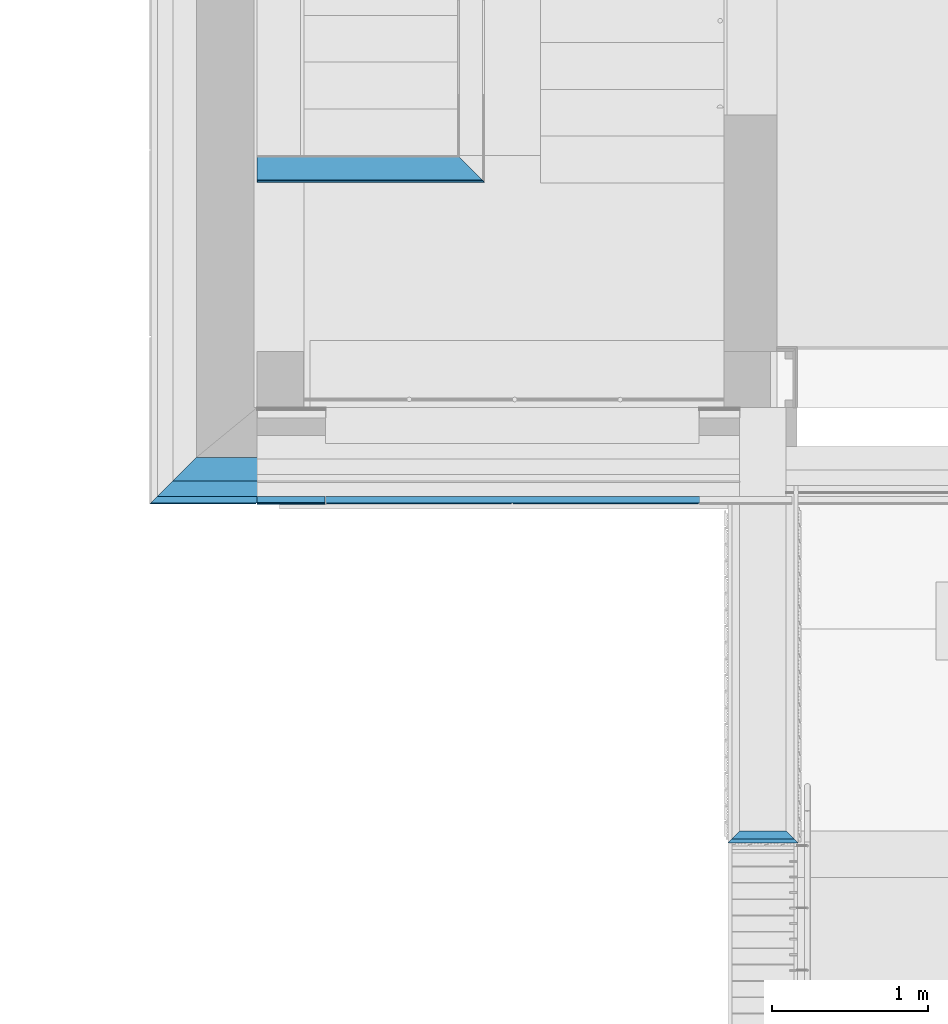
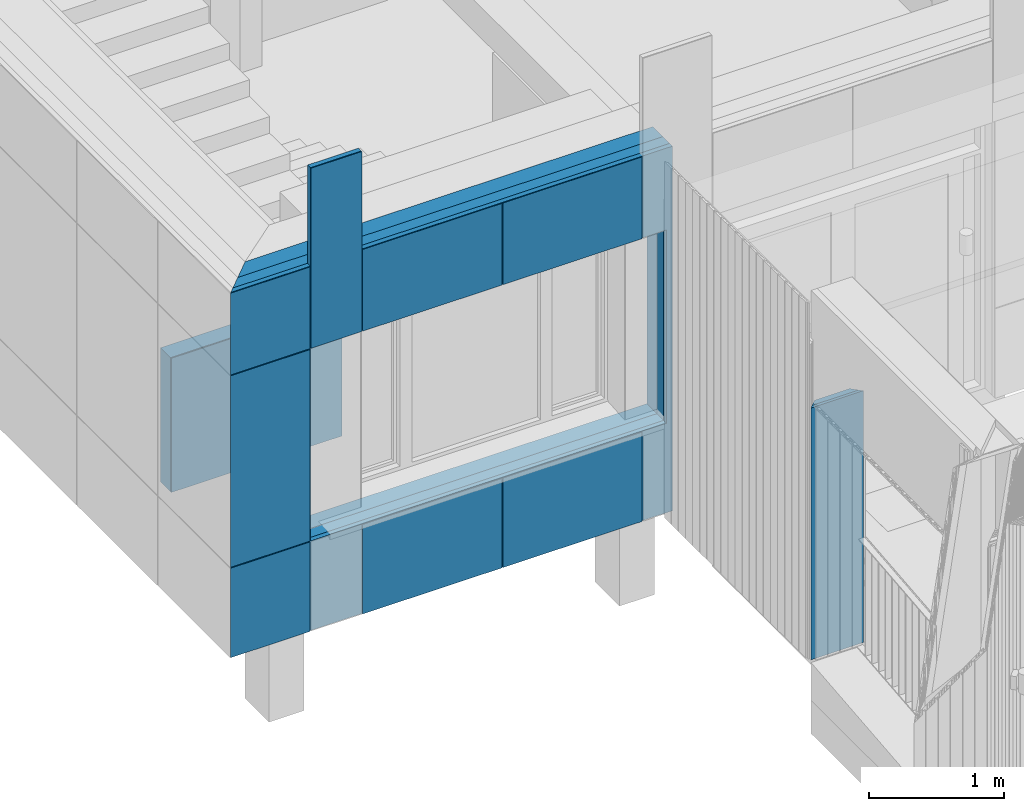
# One storey, part 28 of 418: 10 building element parts, 9 openings, 4 elements without a shape of their own.
"""IFC2X3 building model written with IfcOpenShell, lengths in millimetres."""

from ifc_helpers import new_model, entity, si_unit, converted_unit, derived_unit, money_unit, direction, frame, origin_with_axes, origin_2d_with_axis, place, context, subcontext, project, spatial, polyline, rectangle, outline, extrude, material, type_object, element, aggregate, save


model = new_model("IFC2X3")

# Units and contexts
model_context = context("Model", 3, precision=0.01, world=origin_with_axes(), true_north=direction((0.0, 1.0)))
body_context = subcontext(model_context, "Body", "Model", "MODEL_VIEW")
ifc_project = project(units=[si_unit("LENGTHUNIT", "METRE", prefix="MILLI"), si_unit("AREAUNIT", "SQUARE_METRE"), si_unit("VOLUMEUNIT", "CUBIC_METRE"), converted_unit("PLANEANGLEUNIT", "DEGREE", entity("IfcPlaneAngleMeasure", 0.0174532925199), si_unit("PLANEANGLEUNIT", "RADIAN"), dimensions=[0, 0, 0, 0, 0, 0, 0]), si_unit("SOLIDANGLEUNIT", "STERADIAN"), money_unit("EUR"), converted_unit("TIMEUNIT", "Year", entity("IfcTimeMeasure", 31556926.0), si_unit("TIMEUNIT", "SECOND"), dimensions=[0, 0, 1, 0, 0, 0, 0]), si_unit("MASSUNIT", "GRAM", prefix="KILO"), si_unit("THERMODYNAMICTEMPERATUREUNIT", "DEGREE_CELSIUS"), si_unit("LUMINOUSINTENSITYUNIT", "LUMEN"), si_unit("ENERGYUNIT", "JOULE", prefix="MEGA"), derived_unit("THERMALCONDUCTANCEUNIT", [(si_unit("POWERUNIT", "WATT"), 1), (si_unit("LENGTHUNIT", "METRE"), -1), (si_unit("THERMODYNAMICTEMPERATUREUNIT", "KELVIN"), -1)]), derived_unit("SPECIFICHEATCAPACITYUNIT", [(si_unit("ENERGYUNIT", "JOULE"), 1), (si_unit("MASSUNIT", "GRAM", prefix="KILO"), -1), (si_unit("THERMODYNAMICTEMPERATUREUNIT", "KELVIN"), -1)]), derived_unit("MASSDENSITYUNIT", [(si_unit("MASSUNIT", "GRAM", prefix="KILO"), 1), (si_unit("VOLUMEUNIT", "CUBIC_METRE"), -1)])], contexts=[model_context])

# Site, building, storey
site_placement = place(None, origin_with_axes())
site = spatial("IfcSite", under=ifc_project, at=site_placement, Name="Paldiski mnt 245/1, Tallinn, Harjumaa", CompositionType="COMPLEX")
building_placement = place(site_placement, origin_with_axes())
building = spatial("IfcBuilding", under=site, at=building_placement, Name="RKAS Hoone üldnimetus (kasutust iseloomustav) -> IFC Project Manager -> SOLIBRI", CompositionType="ELEMENT")
storey_placement = place(building_placement, origin_with_axes())
storey = spatial("IfcBuildingStorey", under=building, at=storey_placement, Name="Esimene korrus", CompositionType="ELEMENT", Elevation=0.0)

# Proxy, building element parts
building_element_proxy_type = type_object("IfcBuildingElementProxyType", Name="Varikatuse_sein ots soojustatud 75", PredefinedType="NOTDEFINED")
proxy_placement = place(storey_placement, frame((-44490.0, -15231.0843015, 0.0), z_axis=(0.0, 0.0, 1.0), x_axis=(1.0, 0.0, 0.0)))
proxy = element("IfcBuildingElementProxy", 1, at=proxy_placement, inside=storey, type_object=building_element_proxy_type, Name="Varikatus")
ifc_material_1 = material(Name="SOJ-04_Soojustus - Mineraal Kõva")
building_element_part_1_placement = place(proxy_placement, origin_with_axes())
building_element_part_1 = element("IfcBuildingElementPart", 2, at=building_element_part_1_placement, material=ifc_material_1, Name="SOJ-04_Soojustus - Mineraal Kõva", context=body_context, shape_type="SweptSolid", body=[
    extrude(outline(polyline([(-50.0, -50.0), (350.0, -50.0), (300.0, 0.0), (0.0, 0.0), (-50.0, -50.0)])), origin_with_axes(), (0.0, 0.0, 1.0), 2280.0),
])
ifc_material_2 = material(Name="SKR-01_Õhkvahe - Raam")
building_element_part_2_placement = place(proxy_placement, origin_with_axes())
building_element_part_2 = element("IfcBuildingElementPart", 3, at=building_element_part_2_placement, material=ifc_material_2, Name="SKR-01_Õhkvahe - Raam", context=body_context, shape_type="SweptSolid", body=[
    extrude(outline(polyline([(-75.0, -75.0), (375.0, -75.0), (350.0, -50.0), (-50.0, -50.0), (-75.0, -75.0)])), origin_with_axes(), (0.0, 0.0, 1.0), 2280.0),
])
aggregate(proxy, [building_element_part_1, building_element_part_2])

# Covering, building element parts
covering_type = type_object("IfcCoveringType", Name="VS-02_Cembrit_c040 50", PredefinedType="NOTDEFINED")
covering_placement = place(storey_placement, frame((-47590.0, -13130.0843011, 2560.0), z_axis=(0.0, 0.0, 1.0), x_axis=(1.0, 0.0, 0.0)))
covering = element("IfcCovering", 4, at=covering_placement, inside=storey, type_object=covering_type, Name="VS-02", PredefinedType="NOTDEFINED")
ifc_material_3 = material(Name="Cembrit_C040")
building_element_part_3_placement = place(covering_placement, origin_with_axes())
building_element_part_3 = element("IfcBuildingElementPart", 5, at=building_element_part_3_placement, material=ifc_material_3, Name="Cembrit_C040", context=body_context, shape_type="SweptSolid", body=[
    extrude(outline(polyline([(0.0, 0.0), (436.0, 0.0), (436.0, 8.0), (0.0, 8.0), (0.0, 0.0)])), origin_with_axes(), (0.0, 0.0, 1.0), 1630.0),
])
ifc_material_4 = material(Name="VKR-06_Õhkvahe")
building_element_part_4_placement = place(covering_placement, origin_with_axes())
building_element_part_4 = element("IfcBuildingElementPart", 6, at=building_element_part_4_placement, material=ifc_material_4, Name="VKR-06_Õhkvahe", context=body_context, shape_type="SweptSolid", body=[
    extrude(outline(polyline([(0.0, 8.0), (436.0, 8.0), (436.0, 50.0), (0.0, 50.0), (0.0, 8.0)])), origin_with_axes(), (0.0, 0.0, 1.0), 1630.0),
])
aggregate(covering, [building_element_part_3, building_element_part_4])

# Wall, building element parts
wall_type_1 = type_object("IfcWallType", Name="SS-04 170", PredefinedType="NOTDEFINED")
wall_1_placement = place(storey_placement, frame((-46130.0, -11060.5008533, 0.0), z_axis=(0.0, 0.0, 1.0), x_axis=(-1.0, 0.0, 0.0)))
wall_1 = element("IfcWall", 7, at=wall_1_placement, inside=storey, type_object=wall_type_1, Name="SS-04")
ifc_material_5 = material(Name="Krohv")
building_element_part_5_placement = place(wall_1_placement, origin_with_axes())
building_element_part_5 = element("IfcBuildingElementPart", 8, at=building_element_part_5_placement, material=ifc_material_5, Name="Krohv", context=body_context, shape_type="SweptSolid", body=[
    extrude(outline(polyline([(10.0, -10.0), (1460.0, -10.0), (1460.0, 0.0), (0.0, 0.0), (10.0, -10.0)])), origin_with_axes(), (0.0, 0.0, 1.0), 1214.63086414),
])
ifc_material_6 = material(Name="FIBO 5")
building_element_part_6_placement = place(wall_1_placement, origin_with_axes())
building_element_part_6 = element("IfcBuildingElementPart", 9, at=building_element_part_6_placement, material=ifc_material_6, Name="FIBO 5", context=body_context, shape_type="SweptSolid", body=[
    extrude(outline(polyline([(160.0, -160.0), (1460.0, -160.0), (1460.0, -10.0), (10.0, -10.0), (160.0, -160.0)])), origin_with_axes(), (0.0, 0.0, 1.0), 1214.63086414),
])
aggregate(wall_1, [building_element_part_5, building_element_part_6])

# Wall, openings, building element parts
wall_type_2 = type_object("IfcWallType", Name="VS-02_uued_kihid 300", PredefinedType="NOTDEFINED")
wall_2_placement = place(storey_placement, frame((-44490.0, -12830.0843011, 0.0), z_axis=(0.0, 0.0, 1.0), x_axis=(-1.0, 0.0, 0.0)))
wall_2 = element("IfcWall", 10, at=wall_2_placement, inside=storey, type_object=wall_type_2, Name="VS-02")
opening_1_placement = place(wall_2_placement, frame((260.0, 0.0, 0.0), z_axis=(0.0, 0.0, 1.0), x_axis=(1.0, 0.0, 0.0)))
element("IfcOpeningElement", 11, at=opening_1_placement, cuts=wall_2, Name="Cembrit fassaadiplaadi vuuk", context=body_context, shape_type="SweptSolid", body=[
    extrude(outline(polyline([(-4.0, 0.0), (4.0, 0.0), (4.0, 3300.0), (-4.0, 3300.0), (-4.0, 0.0)])), frame((0.0, 292.0, 0.0), z_axis=(0.0, 1.0, 0.0), x_axis=(-1.0, 0.0, 0.0)), (0.0, 0.0, 1.0), 308.0),
])
opening_2_placement = place(wall_2_placement, frame((128.0, 0.0, 0.0), z_axis=(0.0, 0.0, 1.0), x_axis=(1.0, 0.0, 0.0)))
element("IfcOpeningElement", 12, at=opening_2_placement, cuts=wall_2, Name="Cembrit fassaadiplaadi vuuk", context=body_context, shape_type="SweptSolid", body=[
    extrude(outline(polyline([(-128.0, 0.0), (128.0, 0.0), (128.0, 3300.0), (-128.0, 3300.0), (-128.0, 0.0)])), frame((0.0, 292.0, 0.0), z_axis=(0.0, 1.0, 0.0), x_axis=(-1.0, 0.0, 0.0)), (0.0, 0.0, 1.0), 308.0),
])
opening_3_placement = place(wall_2_placement, frame((1460.0, 0.0, 0.0), z_axis=(0.0, 0.0, 1.0), x_axis=(1.0, 0.0, 0.0)))
element("IfcOpeningElement", 13, at=opening_3_placement, cuts=wall_2, Name="Cembrit fassaadiplaadi vuuk", context=body_context, shape_type="SweptSolid", body=[
    extrude(outline(polyline([(-4.0, 0.0), (4.0, 0.0), (4.0, 3300.0), (-4.0, 3300.0), (-4.0, 0.0)])), frame((0.0, 292.0, 0.0), z_axis=(0.0, 1.0, 0.0), x_axis=(-1.0, 0.0, 0.0)), (0.0, 0.0, 1.0), 308.0),
])
opening_4_placement = place(wall_2_placement, frame((2660.0, 0.0, 0.0), z_axis=(0.0, 0.0, 1.0), x_axis=(1.0, 0.0, 0.0)))
element("IfcOpeningElement", 14, at=opening_4_placement, cuts=wall_2, Name="Cembrit fassaadiplaadi vuuk", context=body_context, shape_type="SweptSolid", body=[
    extrude(outline(polyline([(-4.0, 0.0), (4.0, 0.0), (4.0, 3300.0), (-4.0, 3300.0), (-4.0, 0.0)])), frame((0.0, 292.0, 0.0), z_axis=(0.0, 1.0, 0.0), x_axis=(-1.0, 0.0, 0.0)), (0.0, 0.0, 1.0), 308.0),
])
opening_5_placement = place(wall_2_placement, frame((3104.0, 0.0, 0.0), z_axis=(0.0, 0.0, 1.0), x_axis=(1.0, 0.0, 0.0)))
element("IfcOpeningElement", 15, at=opening_5_placement, cuts=wall_2, Name="Cembrit fassaadiplaadi vuuk", context=body_context, shape_type="SweptSolid", body=[
    extrude(outline(polyline([(-4.0, 0.0), (4.0, 0.0), (4.0, 3300.0), (-4.0, 3300.0), (-4.0, 0.0)])), frame((0.0, 292.0, 0.0), z_axis=(0.0, 1.0, 0.0), x_axis=(-1.0, 0.0, 0.0)), (0.0, 0.0, 1.0), 308.0),
])
opening_6_placement = place(wall_2_placement, frame((2882.0, 0.0, 0.0), z_axis=(0.0, 0.0, 1.0), x_axis=(1.0, 0.0, 0.0)))
element("IfcOpeningElement", 16, at=opening_6_placement, cuts=wall_2, Name="Cembrit fassaadiplaadi vuuk", context=body_context, shape_type="SweptSolid", body=[
    extrude(outline(polyline([(-218.0, 0.0), (218.0, 0.0), (218.0, 3300.0), (-218.0, 3300.0), (-218.0, 0.0)])), frame((0.0, 292.0, 0.0), z_axis=(0.0, 1.0, 0.0), x_axis=(-1.0, 0.0, 0.0)), (0.0, 0.0, 1.0), 308.0),
])
opening_7_placement = place(wall_2_placement, frame((1930.5, 0.0, 810.0), z_axis=(0.0, 0.0, 1.0), x_axis=(1.0, 0.0, 0.0)))
element("IfcOpeningElement", 17, at=opening_7_placement, cuts=wall_2, Name="Cembrit fassaadiplaadi vuuk", context=body_context, shape_type="SweptSolid", body=[
    extrude(outline(polyline([(-1859.5, 0.0), (1859.5, 0.0), (1859.5, 8.0), (-1859.5, 8.0), (-1859.5, 0.0)])), frame((0.0, 292.0, 0.0), z_axis=(0.0, 1.0, 0.0), x_axis=(-1.0, 0.0, 0.0)), (0.0, 0.0, 1.0), 308.0),
])
opening_8_placement = place(wall_2_placement, frame((1930.5, 0.0, 2552.0), z_axis=(0.0, 0.0, 1.0), x_axis=(1.0, 0.0, 0.0)))
element("IfcOpeningElement", 18, at=opening_8_placement, cuts=wall_2, Name="Cembrit fassaadiplaadi vuuk", context=body_context, shape_type="SweptSolid", body=[
    extrude(outline(polyline([(-1859.5, 0.0), (1859.5, 0.0), (1859.5, 8.0), (-1859.5, 8.0), (-1859.5, 0.0)])), frame((0.0, 292.0, 0.0), z_axis=(0.0, 1.0, 0.0), x_axis=(-1.0, 0.0, 0.0)), (0.0, 0.0, 1.0), 308.0),
])
opening_9_placement = place(wall_2_placement, frame((-44490.0, -12830.0843011, 0.0), z_axis=(0.0, 0.0, 1.0), x_axis=(-1.0, 0.0, 0.0)))
element("IfcOpeningElement", 19, at=opening_9_placement, cuts=wall_2, Name="AVA", ObjectType="OPENING", context=body_context, shape_type="SweptSolid", body=[
    extrude(rectangle(XDim=3049.99999985, YDim=1750.0, at=origin_2d_with_axis()), frame((-46065.0000001, -12530.0843011, 1685.0), z_axis=(0.0, 1.0, 0.0), x_axis=(-1.0, 0.0, 0.0)), (0.0, 0.0, -1.0), 900.0),
])
ifc_material_7 = material(Name="Cembrit_C020")
building_element_part_7_placement = place(wall_2_placement, origin_with_axes())
building_element_part_7 = element("IfcBuildingElementPart", 20, at=building_element_part_7_placement, material=ifc_material_7, Name="Cembrit_C020", context=body_context, shape_type="SweptSolid", body=[
    extrude(outline(polyline([(0.0, 292.0), (3782.0, 292.0), (3790.0, 300.0), (0.0, 300.0), (0.0, 292.0)])), origin_with_axes(), (0.0, 0.0, 1.0), 3300.0),
])
building_element_part_8_placement = place(wall_2_placement, origin_with_axes())
building_element_part_8 = element("IfcBuildingElementPart", 21, at=building_element_part_8_placement, material=ifc_material_4, Name="VKR-06_Õhkvahe", context=body_context, shape_type="SweptSolid", body=[
    extrude(outline(polyline([(0.0, 250.0), (3740.0, 250.0), (3782.0, 292.0), (0.0, 292.0), (0.0, 250.0)])), origin_with_axes(), (0.0, 0.0, 1.0), 3300.0),
])
ifc_material_8 = material(Name="Kingspan Kooltherm")
building_element_part_9_placement = place(wall_2_placement, origin_with_axes())
building_element_part_9 = element("IfcBuildingElementPart", 22, at=building_element_part_9_placement, material=ifc_material_8, Name="Kingspan Kooltherm", context=body_context, shape_type="SweptSolid", body=[
    extrude(outline(polyline([(0.0, 150.0), (3640.0, 150.0), (3740.0, 250.0), (0.0, 250.0), (0.0, 150.0)])), origin_with_axes(), (0.0, 0.0, 1.0), 3300.0),
])
building_element_part_10_placement = place(wall_2_placement, origin_with_axes())
building_element_part_10 = element("IfcBuildingElementPart", 23, at=building_element_part_10_placement, material=ifc_material_8, Name="Kingspan Kooltherm", context=body_context, shape_type="SweptSolid", body=[
    extrude(outline(polyline([(0.0, 0.0), (3490.0, 0.0), (3640.0, 150.0), (0.0, 150.0), (0.0, 0.0)])), origin_with_axes(), (0.0, 0.0, 1.0), 3300.0),
])
aggregate(wall_2, [building_element_part_7, building_element_part_8, building_element_part_9, building_element_part_10])

save(model, "model.ifc")
